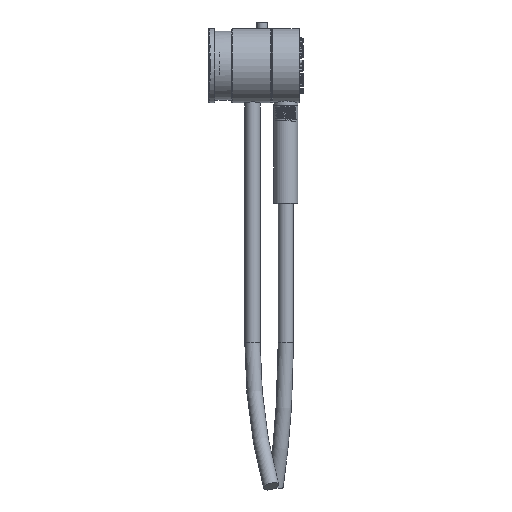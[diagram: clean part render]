
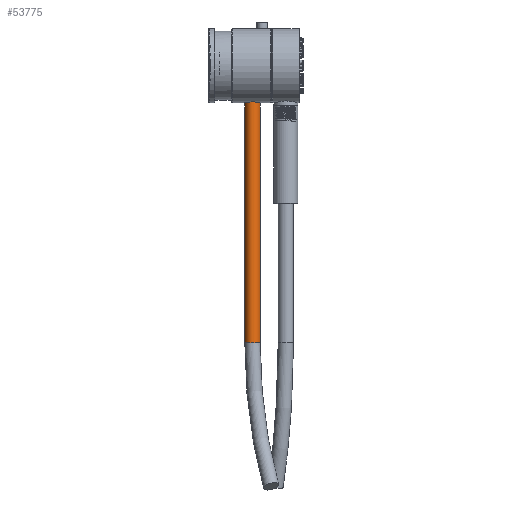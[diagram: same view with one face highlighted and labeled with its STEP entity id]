
A CAD part, left-side view. The second image highlights one B-rep face of the part: STEP entity #53775.
In plain terms, the highlighted cylindrical face has radius 7 mm (diameter 14 mm), a full revolution.
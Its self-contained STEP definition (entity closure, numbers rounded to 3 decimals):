
#18242=ORIENTED_EDGE('',*,*,#23817,.F.);
#18243=ORIENTED_EDGE('',*,*,#23818,.F.);
#23817=EDGE_CURVE('',#27226,#27226,#29299,.T.);
#23818=EDGE_CURVE('',#27227,#27227,#29300,.F.);
#27226=VERTEX_POINT('',#100491);
#27227=VERTEX_POINT('',#100493);
#29299=CIRCLE('',#58563,7.);
#29300=CIRCLE('',#58564,7.);
#32590=EDGE_LOOP('',(#18242));
#32591=EDGE_LOOP('',(#18243));
#35889=FACE_BOUND('',#32590,.T.);
#35890=FACE_BOUND('',#32591,.T.);
#36463=CYLINDRICAL_SURFACE('',#58562,7.);
#53775=ADVANCED_FACE('',(#35889,#35890),#36463,.T.);
#58562=AXIS2_PLACEMENT_3D('',#100489,#69428,#69429);
#58563=AXIS2_PLACEMENT_3D('',#100490,#69430,#69431);
#58564=AXIS2_PLACEMENT_3D('',#100492,#69432,#69433);
#69428=DIRECTION('',(0.,0.,1.));
#69429=DIRECTION('',(0.,-1.,0.));
#69430=DIRECTION('',(0.,0.,1.));
#69431=DIRECTION('',(-1.,0.,0.));
#69432=DIRECTION('',(0.,0.,1.));
#69433=DIRECTION('',(-1.,0.,0.));
#100489=CARTESIAN_POINT('',(0.,30.5,-56.711));
#100490=CARTESIAN_POINT('',(0.,30.5,164.119));
#100491=CARTESIAN_POINT('',(-7.,30.5,164.119));
#100492=CARTESIAN_POINT('',(0.,30.5,-56.711));
#100493=CARTESIAN_POINT('',(-7.,30.5,-56.711));
